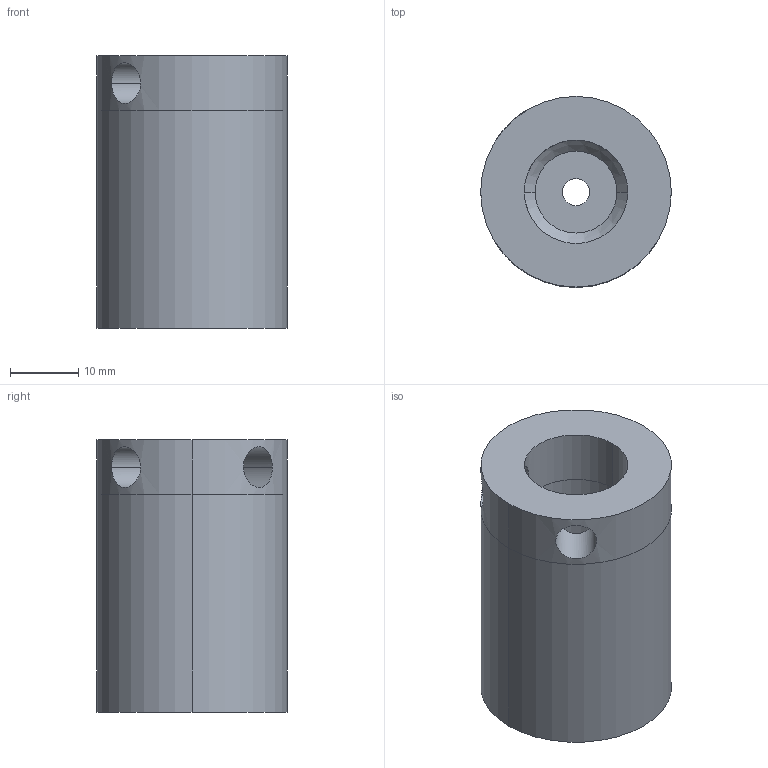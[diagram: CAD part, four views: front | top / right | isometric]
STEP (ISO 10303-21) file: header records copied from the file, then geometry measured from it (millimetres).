
FILE_DESCRIPTION(/* description */ (''),/* implementation_level */ '2;1');
FILE_NAME(/* name */ '3d_usn16-40_06264_r00.stp',/* time_stamp */ '2011-01-10T14:08:53+09:00',/* author */ ('MISUMI'),/* organization */ (''),/* preprocessor_version */ 'ST-DEVELOPER v11',/* originating_system */ 'UGS - NX 5.0',/* authorisation */ '');
FILE_SCHEMA (('CONFIG_CONTROL_DESIGN'));
Length unit declared in the file: millimetre
Products named in the file (1): 3d_usn16-40_06264_r00
Bounding box: 28 x 28 x 40 mm (x, y, z)
Volume: 17601.7 mm3; surface area: 6596.5 mm2
Topology: 1 solids, 1 shells, 20 faces, 44 edges, 28 vertices
Faces by surface type: cylinder 14, plane 4, cone 2
Entity records: 878 total; most frequent: CARTESIAN_POINT 333, DIRECTION 98, ORIENTED_EDGE 88, EDGE_CURVE 44, AXIS2_PLACEMENT_3D 41, EDGE_LOOP 28, VERTEX_POINT 28, ADVANCED_FACE 20
